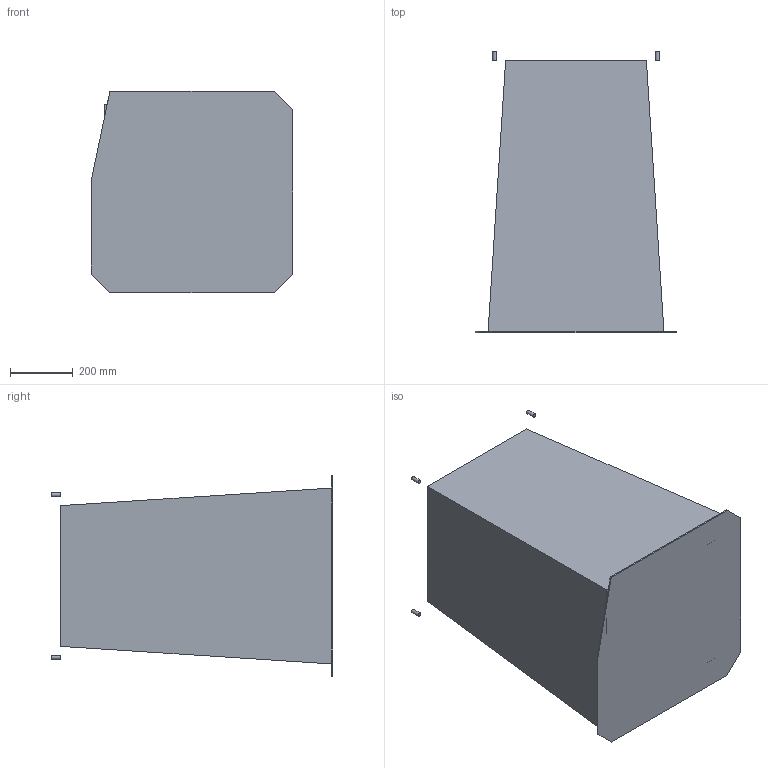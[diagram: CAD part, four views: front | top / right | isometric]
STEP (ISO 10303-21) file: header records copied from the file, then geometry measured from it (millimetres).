
FILE_DESCRIPTION(/* description */ (''),/* implementation_level */ '2;1');
FILE_NAME(/* name */ 'Z:\Output\FDS 315-01379-003.stp',/* time_stamp */ '2017-05-14T01:03:09+02:00',/* author */ ('engineering1'),/* organization */ (''),/* preprocessor_version */ 'ST-DEVELOPER v16.5',/* originating_system */ 'Autodesk Inventor 2017',/* authorisation */ '');
FILE_SCHEMA (('AUTOMOTIVE_DESIGN { 1 0 10303 214 3 1 1 }'));
Length unit declared in the file: millimetre
Products named in the file (1): FSD-1
Bounding box: 645 x 900 x 645 mm (x, y, z)
Volume: 81455957.6 mm3; surface area: 3925101.8 mm2
Topology: 5 solids, 5 shells, 41 faces, 88 edges, 58 vertices
Faces by surface type: plane 35, cylinder 6
Full cylindrical faces by diameter (mm): 12 x4
Entity records: 1108 total; most frequent: DIRECTION 184, CARTESIAN_POINT 184, ORIENTED_EDGE 168, EDGE_CURVE 84, LINE 68, VECTOR 68, VERTEX_POINT 58, AXIS2_PLACEMENT_3D 58
